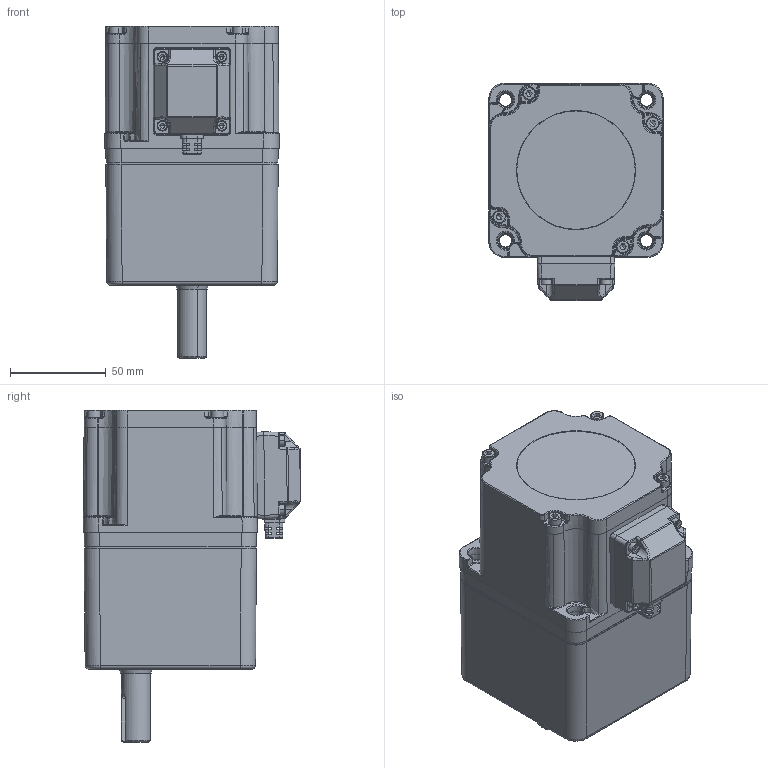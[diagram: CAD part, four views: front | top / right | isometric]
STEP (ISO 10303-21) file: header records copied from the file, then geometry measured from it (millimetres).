
FILE_DESCRIPTION (( 'STEP AP203' ), '1' );
FILE_NAME ('90K2淕儂蚾饜.STEP', '2023-10-06T02:42:06', ( 'Windows 蚚誧' ), ( 'Organization' ), 'SwSTEP 2.0', 'SolidWorks 2019', '' );
FILE_SCHEMA (( 'CONFIG_CONTROL_DESIGN' ));
Length unit declared in the file: millimetre
Products named in the file (13): 90K2淕儂蚾饜; hexagon socket head cap screws gb_GB_FASTENER_SCREWS_HSHCS M3X8-N.STEP; ZD-5GUK2-505-001#眊裔.step; 90 104__________.STEP; 5GU100K2-544; K2____90______.STEP; ZD-5GUK2-504-001#眊极.step; 90 K2______.STEP; 蚐猾90; hexagon socket head cap screws gb_GB_FASTENER_SCREWS_HSHCS M4X8-N.STEP; ________2023.6.28_step.STEP; 90K2萇儂湍諉盄碟.STEP; K2______.STEP
Assembly tree (18 placements, depth 4):
  90K2淕儂蚾饜
    ZD-5GUK2-505-001#眊裔.step
    5GU100K2-544
    ZD-5GUK2-504-001#眊极.step
    蚐猾90
    90K2萇儂湍諉盄碟.STEP
      90 104__________.STEP
        ________2023.6.28_step.STEP
        K2______.STEP
        hexagon socket head cap screws gb_GB_FASTENER_SCREWS_HSHCS M3X8-N.STEP  x4
      K2____90______.STEP
      90 K2______.STEP
      hexagon socket head cap screws gb_GB_FASTENER_SCREWS_HSHCS M4X8-N.STEP  x4
Bounding box: 90.97 x 113.62 x 173.3 mm (x, y, z)
Volume: 769534.9 mm3; surface area: 171091.5 mm2
Topology: 17 solids, 17 shells, 2452 faces, 6155 edges, 3754 vertices
Faces by surface type: plane 746, bspline 507, cylinder 503, cone 359, torus 283, sphere 54
Entity records: 91653 total; most frequent: CARTESIAN_POINT 38356, ORIENTED_EDGE 11484, DIRECTION 9951, EDGE_CURVE 5742, AXIS2_PLACEMENT_3D 3817, VERTEX_POINT 3556, EDGE_LOOP 2482, LINE 2317
